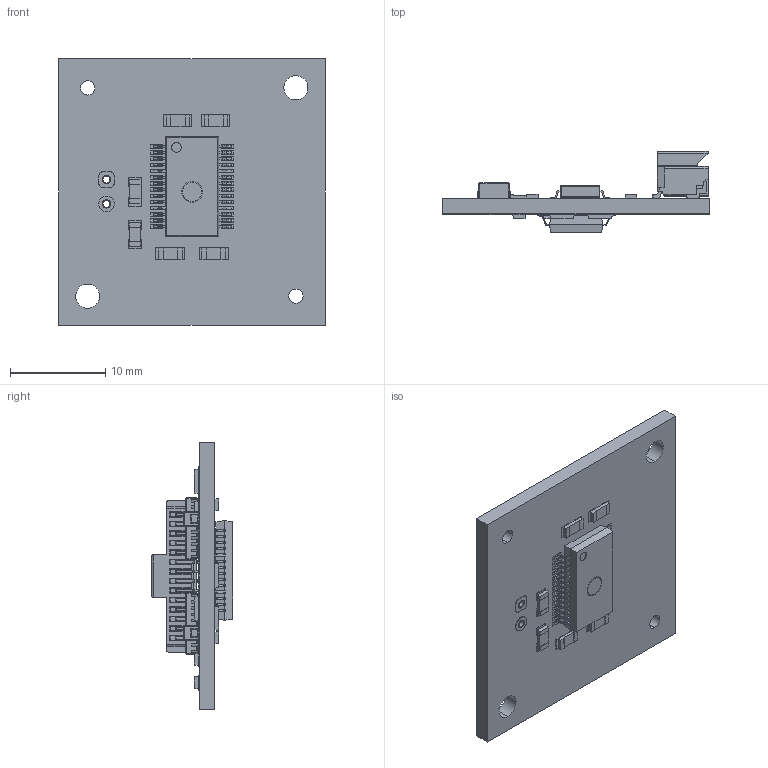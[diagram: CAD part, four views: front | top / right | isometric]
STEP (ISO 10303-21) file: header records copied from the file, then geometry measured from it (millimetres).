
FILE_DESCRIPTION (( 'STEP AP203' ), '1' );
FILE_NAME ('MODM112-3D.STEP', '2019-03-04T14:30:50', ( '' ), ( '' ), 'SwSTEP 2.0', 'SolidWorks 2016', '' );
FILE_SCHEMA (( 'CONFIG_CONTROL_DESIGN' ));
Length unit declared in the file: millimetre
Products named in the file (1): MODM112-3D
Bounding box: 28 x 8.54 x 28 mm (x, y, z)
Volume: 1570.6 mm3; surface area: 3438.6 mm2
Topology: 206 solids, 206 shells, 3231 faces, 7813 edges, 5054 vertices
Faces by surface type: plane 2740, cylinder 265, cone 120, bspline 106
Entity records: 92556 total; most frequent: CARTESIAN_POINT 17572, ORIENTED_EDGE 15626, DIRECTION 14501, EDGE_CURVE 7813, LINE 6671, VECTOR 6671, VERTEX_POINT 5054, AXIS2_PLACEMENT_3D 3915
